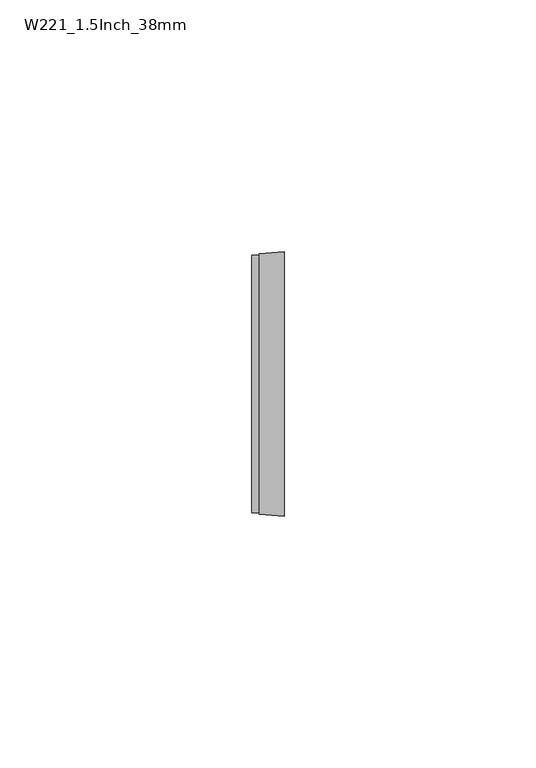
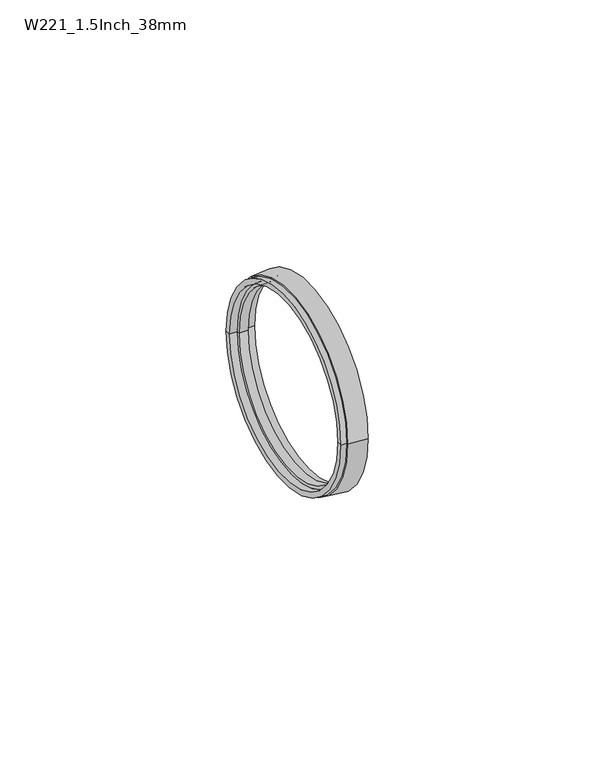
"""IFC4 building model written with IfcOpenShell, lengths in millimetres: pipe fitting geometry, Durapipe_PipeFitting_VulcatheneMechanical_Olive_W22 : W221_1.5Inch_38mm."""

from ifc_helpers import new_model, si_unit, frame, origin, place, context, project, spatial, polyline, circle_curve, source, transform, mapped, element, save
from ifc_brep_helpers import plane_surface, cylinder_surface, revolved_surface, advanced_brep


def w221_1_5inch_38mm_a653aa2d(model_context):
    return source(origin(), model_context, "Body", "AdvancedBrep", [
        advanced_brep(
        [(-1.75, 25.9, 0.0), (-1.75, -25.9, 0.0), (-1.75, -25.6, 0.0), (-1.75, 25.6, 0.0), (3.25, -26.3, 0.0), (3.25, 26.3, 0.0), (3.25, 24.2, 0.0), (3.25, -24.2, 0.0), (-3.25, -25.6, 0.0), (-3.25, 25.6, 0.0), (-3.25, -24.2, 0.0), (-3.25, 24.2, 0.0), (-1.25, -24.2, 0.0), (-1.25, 24.2, 0.0), (-1.25, -23.4, 0.0), (-1.25, 23.4, 0.0), (1.05, -24.2, 0.0), (1.05, 24.2, 0.0), (1.05, 23.4, 0.0), (1.05, -23.4, 0.0)],
        [
            (0, 1, circle_curve(frame((-1.75, 0.0, 0.0), z_axis=(-1.0, 0.0, 0.0), x_axis=(0.0, 1.0, 0.0)), 25.9)),
            (1, 2),
            (2, 3, circle_curve(frame((-1.75, 0.0, 0.0), z_axis=(1.0, 0.0, 0.0), x_axis=(0.0, 1.0, 0.0)), 25.6)),
            (3, 0),
            (1, 0, circle_curve(frame((-1.75, 0.0, 0.0), z_axis=(-1.0, 0.0, 0.0), x_axis=(0.0, 1.0, 0.0)), 25.9)),
            (3, 2, circle_curve(frame((-1.75, 0.0, 0.0), z_axis=(1.0, 0.0, 0.0), x_axis=(0.0, 1.0, 0.0)), 25.6)),
            (4, 5, circle_curve(frame((3.25, 0.0, 0.0), z_axis=(1.0, 0.0, 0.0), x_axis=(0.0, 1.0, 0.0)), 26.3)),
            (5, 6),
            (6, 7, circle_curve(frame((3.25, 0.0, 0.0), z_axis=(-1.0, 0.0, 0.0), x_axis=(0.0, 1.0, 0.0)), 24.2)),
            (7, 4),
            (5, 4, circle_curve(frame((3.25, 0.0, 0.0), z_axis=(1.0, 0.0, 0.0), x_axis=(0.0, 1.0, 0.0)), 26.3)),
            (7, 6, circle_curve(frame((3.25, 0.0, 0.0), z_axis=(-1.0, 0.0, 0.0), x_axis=(0.0, 1.0, 0.0)), 24.2)),
            (0, 5),
            (4, 1),
            (8, 9, circle_curve(frame((-3.25, 0.0, 0.0), z_axis=(1.0, 0.0, 0.0), x_axis=(0.0, 1.0, 0.0)), 25.6)),
            (9, 3),
            (2, 8),
            (9, 8, circle_curve(frame((-3.25, 0.0, 0.0), z_axis=(1.0, 0.0, 0.0), x_axis=(0.0, 1.0, 0.0)), 25.6)),
            (8, 10),
            (10, 11, circle_curve(frame((-3.25, 0.0, 0.0), z_axis=(1.0, 0.0, 0.0), x_axis=(0.0, 1.0, 0.0)), 24.2)),
            (11, 9),
            (11, 10, circle_curve(frame((-3.25, 0.0, 0.0), z_axis=(1.0, 0.0, 0.0), x_axis=(0.0, 1.0, 0.0)), 24.2)),
            (10, 12),
            (12, 13, circle_curve(frame((-1.25, 0.0, 0.0), z_axis=(1.0, 0.0, 0.0), x_axis=(0.0, 1.0, 0.0)), 24.2)),
            (13, 11),
            (13, 12, circle_curve(frame((-1.25, 0.0, 0.0), z_axis=(1.0, 0.0, 0.0), x_axis=(0.0, 1.0, 0.0)), 24.2)),
            (12, 14),
            (14, 15, circle_curve(frame((-1.25, 0.0, 0.0), z_axis=(1.0, 0.0, 0.0), x_axis=(0.0, 1.0, 0.0)), 23.4)),
            (15, 13),
            (15, 14, circle_curve(frame((-1.25, 0.0, 0.0), z_axis=(1.0, 0.0, 0.0), x_axis=(0.0, 1.0, 0.0)), 23.4)),
            (16, 17, circle_curve(frame((1.05, 0.0, 0.0), z_axis=(1.0, 0.0, 0.0), x_axis=(0.0, 1.0, 0.0)), 24.2)),
            (17, 18),
            (18, 19, circle_curve(frame((1.05, 0.0, 0.0), z_axis=(-1.0, 0.0, 0.0), x_axis=(0.0, 1.0, 0.0)), 23.4)),
            (19, 16),
            (17, 16, circle_curve(frame((1.05, 0.0, 0.0), z_axis=(1.0, 0.0, 0.0), x_axis=(0.0, 1.0, 0.0)), 24.2)),
            (19, 18, circle_curve(frame((1.05, 0.0, 0.0), z_axis=(-1.0, 0.0, 0.0), x_axis=(0.0, 1.0, 0.0)), 23.4)),
            (6, 17),
            (16, 7),
            (14, 19),
            (18, 15),
        ],
        [
            plane_surface(frame((-1.75, 0.0, 0.0), z_axis=(-1.0, 0.0, 0.0), x_axis=(0.0, 1.0, 0.0))),
            plane_surface(frame((3.25, 0.0, 0.0), z_axis=(1.0, 0.0, 0.0), x_axis=(0.0, 1.0, 0.0))),
            revolved_surface(polyline([(3.25, 26.3, 0.0), (-1.75, 25.9, 0.0)]), (8.25, 0.0, 0.0), (-1.0, 0.0, 0.0)),
            cylinder_surface(frame((-5.3206557, 0.0, 0.0), z_axis=(-1.0, 0.0, 0.0), x_axis=(0.0, 1.0, 0.0)), 25.6),
            plane_surface(frame((-3.25, 0.0, 0.0), z_axis=(-1.0, 0.0, 0.0), x_axis=(0.0, 1.0, 0.0))),
            revolved_surface(polyline([(-3.25, 24.2, 0.0), (-1.25, 24.2, 0.0)]), (-6.742991, 0.0, 0.0), (-1.0, 0.0, 0.0)),
            plane_surface(frame((-1.25, 0.0, 0.0), z_axis=(-1.0, 0.0, 0.0), x_axis=(0.0, 1.0, 0.0))),
            plane_surface(frame((1.05, 0.0, 0.0), z_axis=(1.0, 0.0, 0.0), x_axis=(0.0, 1.0, 0.0))),
            revolved_surface(polyline([(1.0499999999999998, 24.2, 0.0), (3.25, 24.2, 0.0)]), (8.25, 0.0, 0.0), (-1.0, 0.0, 0.0)),
            revolved_surface(polyline([(-1.25, 23.4, 0.0), (1.0499999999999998, 23.4, 0.0)]), (4.8161924, 0.0, 0.0), (-1.0, 0.0, 0.0)),
        ],
        [
            (0, [[1, 2, 3, 4]]),
            (0, [[5, -4, 6, -2]]),
            (1, [[7, 8, 9, 10]]),
            (1, [[-8, 11, -10, 12]]),
            (2, [[-1, 13, -7, 14]]),
            (2, [[-5, -14, -11, -13]]),
            (3, [[15, 16, -3, 17]]),
            (3, [[-16, 18, -17, -6]]),
            (4, [[-15, 19, 20, 21]]),
            (4, [[-18, -21, 22, -19]]),
            (5, [[23, 24, 25, -20]]),
            (5, [[-23, -22, -25, 26]]),
            (6, [[-24, 27, 28, 29]]),
            (6, [[-26, -29, 30, -27]]),
            (7, [[31, 32, 33, 34]]),
            (7, [[35, -34, 36, -32]]),
            (8, [[-9, 37, -31, 38]]),
            (8, [[-12, -38, -35, -37]]),
            (9, [[39, -33, 40, -28]]),
            (9, [[-39, -30, -40, -36]]),
        ],
    ),
    ])


if __name__ == "__main__":
    model = new_model("IFC4")
    model_context = context("Model", 3, world=origin())
    ifc_project = project(units=[si_unit("LENGTHUNIT", "METRE", prefix="MILLI")], contexts=[model_context])
    site = spatial("IfcSite", under=ifc_project)
    building = spatial("IfcBuilding", under=site)
    placement = place(None, origin())
    w221_1_5inch_38mm_shape = w221_1_5inch_38mm_a653aa2d(model_context)
    element("IfcPipeFitting", 1, ObjectType="Durapipe_PipeFitting_VulcatheneMechanical_Olive_W22 : W221_1.5Inch_38mm", at=placement, inside=building, context=model_context, shape_type="MappedRepresentation", body=[
        mapped(w221_1_5inch_38mm_shape, transform((0.0, 0.0, 0.0), x_axis=(1.0, 0.0, 0.0), y_axis=(0.0, 1.0, 0.0), z_axis=(0.0, 0.0, 1.0))),
    ])
    save(model, "model.ifc")
